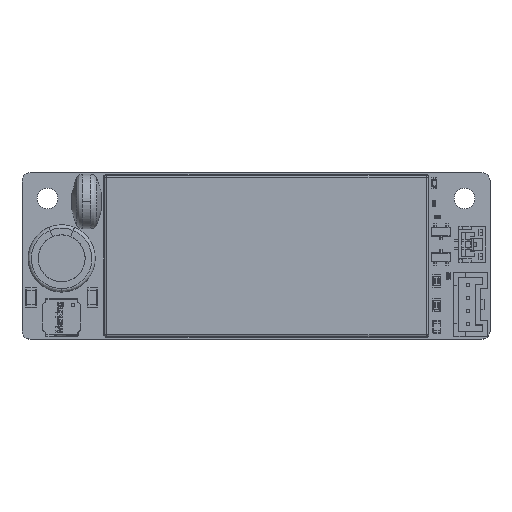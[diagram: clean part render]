
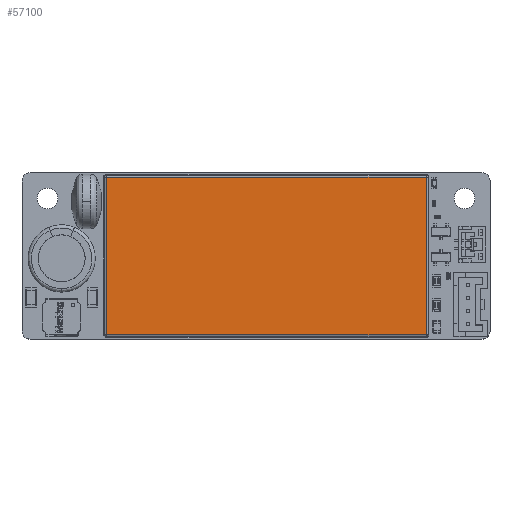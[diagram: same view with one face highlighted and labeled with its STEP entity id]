
A CAD part, top view. The second image highlights one B-rep face of the part: STEP entity #57100.
In plain terms, the highlighted planar face has unit normal (0, 0, 1).
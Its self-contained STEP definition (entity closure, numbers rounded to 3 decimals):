
#57100 = ADVANCED_FACE('',(#57101),#57135,.F.);
#57101 = FACE_BOUND('',#57102,.T.);
#57102 = EDGE_LOOP('',(#57103,#57113,#57121,#57129));
#57103 = ORIENTED_EDGE('',*,*,#57104,.T.);
#57104 = EDGE_CURVE('',#57105,#57107,#57109,.T.);
#57105 = VERTEX_POINT('',#57106);
#57106 = CARTESIAN_POINT('',(63.114,25.314,
    10.2));
#57107 = VERTEX_POINT('',#57108);
#57108 = CARTESIAN_POINT('',(13.086,25.314,
    10.2));
#57109 = LINE('',#57110,#57111);
#57110 = CARTESIAN_POINT('',(38.1,25.314,10.2));
#57111 = VECTOR('',#57112,1.);
#57112 = DIRECTION('',(-1.,0.,0.));
#57113 = ORIENTED_EDGE('',*,*,#57114,.T.);
#57114 = EDGE_CURVE('',#57107,#57115,#57117,.T.);
#57115 = VERTEX_POINT('',#57116);
#57116 = CARTESIAN_POINT('',(13.086,0.686,
    10.2));
#57117 = LINE('',#57118,#57119);
#57118 = CARTESIAN_POINT('',(13.086,13.,
    10.2));
#57119 = VECTOR('',#57120,1.);
#57120 = DIRECTION('',(0.,-1.,0.));
#57121 = ORIENTED_EDGE('',*,*,#57122,.T.);
#57122 = EDGE_CURVE('',#57115,#57123,#57125,.T.);
#57123 = VERTEX_POINT('',#57124);
#57124 = CARTESIAN_POINT('',(63.114,0.686,
    10.2));
#57125 = LINE('',#57126,#57127);
#57126 = CARTESIAN_POINT('',(38.1,0.686,10.2));
#57127 = VECTOR('',#57128,1.);
#57128 = DIRECTION('',(1.,0.,0.));
#57129 = ORIENTED_EDGE('',*,*,#57130,.T.);
#57130 = EDGE_CURVE('',#57123,#57105,#57131,.T.);
#57131 = LINE('',#57132,#57133);
#57132 = CARTESIAN_POINT('',(63.114,13.,
    10.2));
#57133 = VECTOR('',#57134,1.);
#57134 = DIRECTION('',(0.,1.,0.));
#57135 = PLANE('',#57136);
#57136 = AXIS2_PLACEMENT_3D('',#57137,#57138,#57139);
#57137 = CARTESIAN_POINT('',(38.1,13.,10.2));
#57138 = DIRECTION('',(0.,0.,-1.));
#57139 = DIRECTION('',(1.,0.,0.));
